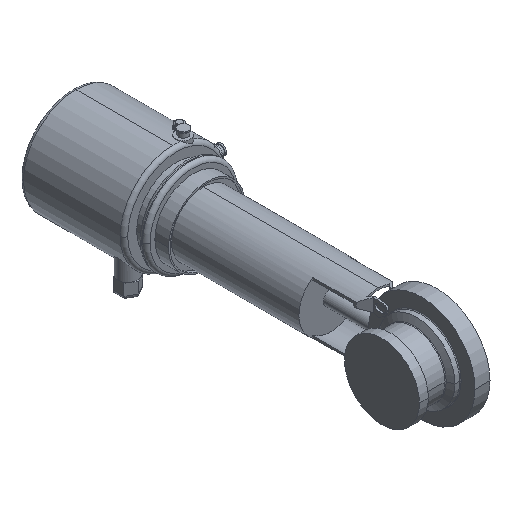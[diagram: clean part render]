
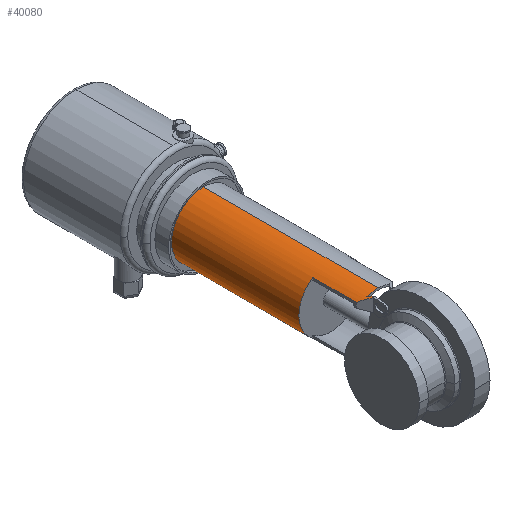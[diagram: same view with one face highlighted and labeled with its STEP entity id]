
A CAD part, isometric view. The second image highlights one B-rep face of the part: STEP entity #40080.
In plain terms, the highlighted cylindrical face has radius 42.5 mm (diameter 85 mm), a partial arc.
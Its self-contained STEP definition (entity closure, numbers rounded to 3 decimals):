
#2790=CARTESIAN_POINT('',(-98.126,-262.662,
0.));
#2800=DIRECTION('',(0.,-0.113,-0.994));
#2810=DIRECTION('',(0.,0.994,-0.113));
#2820=AXIS2_PLACEMENT_3D('',#2790,#2800,#2810);
#2830=ELLIPSE('',#2820,375.431,42.5);
#2840=CARTESIAN_POINT('',(-110.626,93.857,
-40.62));
#2850=VERTEX_POINT('',#2840);
#2860=CARTESIAN_POINT('',(-108.774,98.46,
-41.145));
#2870=VERTEX_POINT('',#2860);
#2880=EDGE_CURVE('',#2850,#2870,#2830,.T.);
#4470=CARTESIAN_POINT('',(-108.126,101.348,
-41.307));
#4480=VERTEX_POINT('',#4470);
#4530=CARTESIAN_POINT('',(-108.126,169.806,
-41.307));
#4540=DIRECTION('',(0.,-1.,0.));
#4550=VECTOR('',#4540,1.);
#4560=LINE('',#4530,#4550);
#4570=CARTESIAN_POINT('',(-108.126,97.812,
-41.307));
#4580=VERTEX_POINT('',#4570);
#4590=EDGE_CURVE('',#4480,#4580,#4560,.T.);
#5640=CARTESIAN_POINT('',(-98.126,106.406,
0.));
#5650=DIRECTION('',(0.,-1.,0.));
#5660=DIRECTION('',(0.,0.,-1.));
#5670=AXIS2_PLACEMENT_3D('',#5640,#5650,#5660);
#5680=CIRCLE('',#5670,42.5);
#5690=CARTESIAN_POINT('',(-98.126,106.406,-42.5));
#5700=VERTEX_POINT('',#5690);
#5730=CARTESIAN_POINT('',(-113.184,106.406,
-39.743));
#5740=VERTEX_POINT('',#5730);
#5750=EDGE_CURVE('',#5740,#5700,#5680,.T.);
#6900=CARTESIAN_POINT('',(-98.126,106.406,
0.));
#6910=DIRECTION('',(0.,-1.,0.));
#6920=DIRECTION('',(0.,0.,1.));
#6930=AXIS2_PLACEMENT_3D('',#6900,#6910,#6920);
#6940=CIRCLE('',#6930,42.5);
#6970=CARTESIAN_POINT('',(-98.126,106.406,42.5));
#6980=VERTEX_POINT('',#6970);
#7220=CARTESIAN_POINT('',(-113.184,106.406,
39.743));
#7230=VERTEX_POINT('',#7220);
#7260=EDGE_CURVE('',#6980,#7230,#6940,.T.);
#13660=CARTESIAN_POINT('',(-122.126,169.806,
-35.075));
#13670=VERTEX_POINT('',#13660);
#13700=CARTESIAN_POINT('',(-98.126,169.806,
0.));
#13710=DIRECTION('',(0.,-1.,0.));
#13720=DIRECTION('',(0.,0.,1.));
#13730=AXIS2_PLACEMENT_3D('',#13700,#13710,#13720);
#13740=CIRCLE('',#13730,42.5);
#13750=CARTESIAN_POINT('',(-122.126,169.806,
35.075));
#13760=VERTEX_POINT('',#13750);
#13770=EDGE_CURVE('',#13760,#13670,#13740,.T.);
#19810=CARTESIAN_POINT('',(-98.126,91.348,
0.));
#19820=DIRECTION('',(0.707,0.707,0.));
#19830=DIRECTION('',(0.707,-0.707,0.));
#19840=AXIS2_PLACEMENT_3D('',#19810,#19820,#19830);
#19850=ELLIPSE('',#19840,60.104,42.5);
#19860=EDGE_CURVE('',#4480,#5740,#19850,.T.);
#20040=CARTESIAN_POINT('',(-122.126,366.667,
-35.075));
#20050=DIRECTION('',(0.,-1.,0.));
#20060=VECTOR('',#20050,1.);
#20070=LINE('',#20040,#20060);
#20080=CARTESIAN_POINT('',(-122.126,111.812,
-35.075));
#20090=VERTEX_POINT('',#20080);
#20100=EDGE_CURVE('',#13670,#20090,#20070,.T.);
#20410=CARTESIAN_POINT('',(-110.626,366.667,
-40.62));
#20420=DIRECTION('',(0.,-1.,0.));
#20430=VECTOR('',#20420,1.);
#20440=LINE('',#20410,#20430);
#20450=CARTESIAN_POINT('',(-110.626,100.312,
-40.62));
#20460=VERTEX_POINT('',#20450);
#20470=EDGE_CURVE('',#20460,#2850,#20440,.T.);
#22490=CARTESIAN_POINT('',(-110.626,103.848,
40.62));
#22500=VERTEX_POINT('',#22490);
#22530=CARTESIAN_POINT('',(-98.126,91.348,
0.));
#22540=DIRECTION('',(0.707,0.707,0.));
#22550=DIRECTION('',(-0.707,0.707,0.));
#22560=AXIS2_PLACEMENT_3D('',#22530,#22540,#22550);
#22570=ELLIPSE('',#22560,60.104,42.5);
#22580=EDGE_CURVE('',#7230,#22500,#22570,.T.);
#24020=CARTESIAN_POINT('',(-122.126,111.812,
35.075));
#24030=VERTEX_POINT('',#24020);
#24350=CARTESIAN_POINT('',(-122.126,366.667,
35.075));
#24360=DIRECTION('',(0.,-1.,0.));
#24370=VECTOR('',#24360,1.);
#24380=LINE('',#24350,#24370);
#24390=EDGE_CURVE('',#13760,#24030,#24380,.T.);
#25210=CARTESIAN_POINT('',(-98.126,169.806,-42.5));
#25220=DIRECTION('',(0.,-1.,0.));
#25230=VECTOR('',#25220,1.);
#25240=LINE('',#25210,#25230);
#25250=CARTESIAN_POINT('',(-98.126,339.806,-42.5));
#25260=VERTEX_POINT('',#25250);
#25270=EDGE_CURVE('',#25260,#5700,#25240,.T.);
#25430=CARTESIAN_POINT('',(-98.126,169.806,42.5));
#25440=DIRECTION('',(0.,-1.,0.));
#25450=VECTOR('',#25440,1.);
#25460=LINE('',#25430,#25450);
#25470=CARTESIAN_POINT('',(-98.126,339.806,42.5));
#25480=VERTEX_POINT('',#25470);
#25490=EDGE_CURVE('',#25480,#6980,#25460,.T.);
#25510=CARTESIAN_POINT('',(-98.126,339.806,
0.));
#25520=DIRECTION('',(0.,-1.,0.));
#25530=DIRECTION('',(0.,0.,-1.));
#25540=AXIS2_PLACEMENT_3D('',#25510,#25520,#25530);
#25550=CIRCLE('',#25540,42.5);
#25660=EDGE_CURVE('',#25480,#25260,#25550,.T.);
#25780=CARTESIAN_POINT('',(-98.126,87.812,
0.));
#25790=DIRECTION('',(-0.707,-0.707,0.));
#25800=DIRECTION('',(0.707,-0.707,0.));
#25810=AXIS2_PLACEMENT_3D('',#25780,#25790,#25800);
#25820=ELLIPSE('',#25810,60.104,42.5);
#25830=CARTESIAN_POINT('',(-110.626,100.312,
40.62));
#25840=VERTEX_POINT('',#25830);
#25850=EDGE_CURVE('',#25840,#24030,#25820,.T.);
#26960=CARTESIAN_POINT('',(-110.626,366.667,
40.62));
#26970=DIRECTION('',(0.,-1.,0.));
#26980=VECTOR('',#26970,1.);
#26990=LINE('',#26960,#26980);
#27020=EDGE_CURVE('',#22500,#25840,#26990,.T.);
#28630=CARTESIAN_POINT('',(-98.126,87.812,
0.));
#28640=DIRECTION('',(0.707,0.707,0.));
#28650=DIRECTION('',(0.707,-0.707,0.));
#28660=AXIS2_PLACEMENT_3D('',#28630,#28640,#28650);
#28670=ELLIPSE('',#28660,60.104,42.5);
#28680=EDGE_CURVE('',#20460,#20090,#28670,.T.);
#29060=CARTESIAN_POINT('',(-98.126,87.812,
0.));
#29070=DIRECTION('',(-0.707,-0.707,0.));
#29080=DIRECTION('',(-0.707,0.707,0.));
#29090=AXIS2_PLACEMENT_3D('',#29060,#29070,#29080);
#29100=ELLIPSE('',#29090,60.104,42.5);
#29110=EDGE_CURVE('',#2870,#4580,#29100,.T.);
#39840=CARTESIAN_POINT('',(-98.126,169.806,
0.));
#39850=DIRECTION('',(0.,-1.,0.));
#39860=DIRECTION('',(0.,0.,-1.));
#39870=AXIS2_PLACEMENT_3D('',#39840,#39850,#39860);
#39880=CYLINDRICAL_SURFACE('',#39870,42.5);
#39890=ORIENTED_EDGE('',*,*,#25660,.T.);
#39900=ORIENTED_EDGE('',*,*,#25490,.F.);
#39910=ORIENTED_EDGE('',*,*,#7260,.F.);
#39920=ORIENTED_EDGE('',*,*,#22580,.F.);
#39930=ORIENTED_EDGE('',*,*,#27020,.F.);
#39940=ORIENTED_EDGE('',*,*,#25850,.F.);
#39950=ORIENTED_EDGE('',*,*,#24390,.T.);
#39960=ORIENTED_EDGE('',*,*,#13770,.F.);
#39970=ORIENTED_EDGE('',*,*,#20100,.F.);
#39980=ORIENTED_EDGE('',*,*,#28680,.T.);
#39990=ORIENTED_EDGE('',*,*,#20470,.F.);
#40000=ORIENTED_EDGE('',*,*,#2880,.F.);
#40010=ORIENTED_EDGE('',*,*,#29110,.F.);
#40020=ORIENTED_EDGE('',*,*,#4590,.T.);
#40030=ORIENTED_EDGE('',*,*,#19860,.F.);
#40040=ORIENTED_EDGE('',*,*,#5750,.F.);
#40050=ORIENTED_EDGE('',*,*,#25270,.T.);
#40060=EDGE_LOOP('',(#40050,#40040,#40030,#40020,#40010,#40000,#39990,
#39980,#39970,#39960,#39950,#39940,#39930,#39920,#39910,#39900,#39890));
#40070=FACE_OUTER_BOUND('',#40060,.T.);
#40080=ADVANCED_FACE('',(#40070),#39880,.T.);
